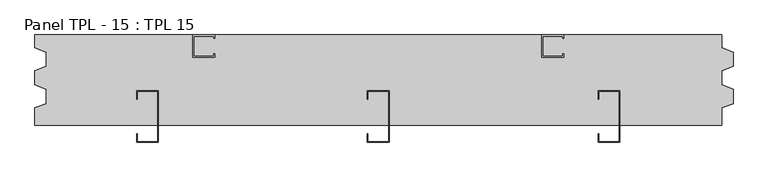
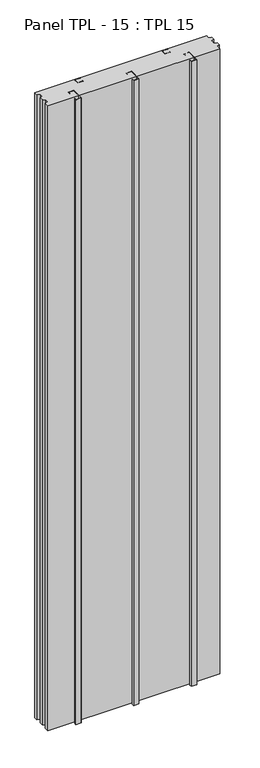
"""IFC4 building model written with IfcOpenShell, lengths in millimetres: plate geometry, Panel TPL - 15 : TPL 15."""

from ifc_helpers import new_model, si_unit, origin, origin_with_axes, place, context, project, spatial, polyline, outline, extrude, source, transform, mapped, element, save


def panel_tpl_15_tpl_15_76809f6c(model_context):
    return source(origin(), model_context, "Body", "SweptSolid", [
        extrude(outline(polyline([(-19.0, -18.75), (19.0, -18.75), (19.0, -108.75), (-19.0, -108.75), (-19.0, -93.75), (-18.15, -93.75), (-18.15, -107.9), (18.15, -107.9), (18.15, -19.6), (-18.15, -19.6), (-18.15, -33.75), (-19.0, -33.75), (-19.0, -18.75)])), origin_with_axes(), (0.0, 0.0, 1.0), 4618.8021535),
        extrude(outline(polyline([(-324.5000002, 78.75), (-285.5000002, 78.75), (-285.5000002, 72.75), (-287.5000002, 72.75), (-287.5000002, 76.75), (-322.5000002, 76.75), (-322.5000002, 41.75), (-287.5000002, 41.75), (-287.5000002, 45.75), (-285.5000002, 45.75), (-285.5000002, 39.75), (-324.5000002, 39.75), (-324.5000002, 78.75)])), origin_with_axes(), (0.0, 0.0, 1.0), 4618.8021535),
        extrude(outline(polyline([(285.5000002, 78.75), (324.5000002, 78.75), (324.5000002, 72.75), (322.5000002, 72.75), (322.5000002, 76.75), (287.5000002, 76.75), (287.5000002, 41.75), (322.5000002, 41.75), (322.5000002, 45.75), (324.5000002, 45.75), (324.5000002, 39.75), (285.5000002, 39.75), (285.5000002, 78.75)])), origin_with_axes(), (0.0, 0.0, 1.0), 4618.8021535),
        extrude(outline(polyline([(-422.3000002, -18.75), (-384.3000002, -18.75), (-384.3000002, -108.75), (-422.3000002, -108.75), (-422.3000002, -93.75), (-421.4500002, -93.75), (-421.4500002, -107.9), (-385.1500002, -107.9), (-385.1500002, -19.6), (-421.4500002, -19.6), (-421.4500002, -33.75), (-422.3000002, -33.75), (-422.3000002, -18.75)])), origin_with_axes(), (0.0, 0.0, 1.0), 4618.8021535),
        extrude(outline(polyline([(384.3000002, -18.75), (422.3000002, -18.75), (422.3000002, -108.75), (384.3000002, -108.75), (384.3000002, -93.75), (385.1500002, -93.75), (385.1500002, -107.9), (421.4500002, -107.9), (421.4500002, -19.6), (385.1500002, -19.6), (385.1500002, -33.75), (384.3000002, -33.75), (384.3000002, -18.75)])), origin_with_axes(), (0.0, 0.0, 1.0), 4618.8021535),
        extrude(outline(polyline([(-600.0000002, 78.75), (600.0000002, 78.75), (600.0000002, 56.2520076), (620.0000002, 48.7510038), (620.0000002, 23.7510038), (600.0000002, 16.25), (600.0000002, -8.75), (620.0000002, -16.2510038), (620.0000002, -41.2510038), (600.0000002, -48.7520076), (600.0000002, -78.75), (-600.0000002, -78.75), (-600.0000002, -48.7520076), (-580.0000002, -41.2510038), (-580.0000002, -16.2510038), (-600.0000002, -8.75), (-600.0000002, 16.25), (-580.0000002, 23.7510038), (-580.0000002, 48.7510038), (-600.0000002, 56.2520076), (-600.0000002, 78.75)])), origin_with_axes(), (0.0, 0.0, 1.0), 4618.8021535),
    ])


if __name__ == "__main__":
    model = new_model("IFC4")
    model_context = context("Model", 3, world=origin())
    ifc_project = project(units=[si_unit("LENGTHUNIT", "METRE", prefix="MILLI")], contexts=[model_context])
    site = spatial("IfcSite", under=ifc_project)
    building = spatial("IfcBuilding", under=site)
    placement = place(None, origin())
    panel_tpl_15_tpl_15_shape = panel_tpl_15_tpl_15_76809f6c(model_context)
    element("IfcPlate", 1, ObjectType="Panel TPL - 15 : TPL 15", at=placement, inside=building, context=model_context, shape_type="MappedRepresentation", body=[
        mapped(panel_tpl_15_tpl_15_shape, transform((0.0, 0.0, 0.0), x_axis=(1.0, 0.0, 0.0), y_axis=(0.0, 1.0, 0.0), z_axis=(0.0, 0.0, 1.0))),
    ])
    save(model, "model.ifc")
